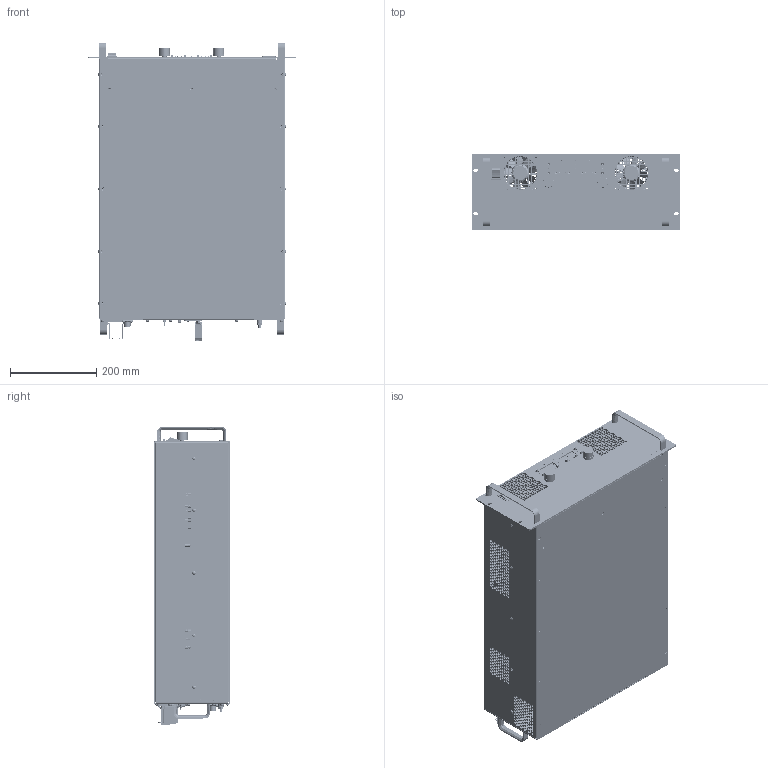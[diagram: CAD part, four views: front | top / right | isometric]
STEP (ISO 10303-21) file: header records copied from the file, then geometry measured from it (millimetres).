
FILE_DESCRIPTION (( 'STEP AP214' ), '1' );
FILE_NAME ('KR SERIES MAIN ASSEMBLY.STEP', '2020-03-23T13:39:04', ( '' ), ( '' ), 'SwSTEP 2.0', 'SolidWorks 2020', '' );
FILE_SCHEMA (( 'AUTOMOTIVE_DESIGN' ));
Length unit declared in the file: inch
Products named in the file (131): JCONN22M25-04 WITH PINS & STRAIN RELIEF; B014-3-12DC_B014-3-12DC-B03; DS008_DS008-LED-RED-2; H-HANDLE002_H-HANDLE002-07; FHS-440-8; JCONN22-STRNRLF; 401370-008_#; HFS1032-08FF; S-PB-PC-02; 201485-006_#; FHS-832-8; 101395-002_#1; DS008_DS008-LED-GRN-1; HFN0632L; ACI-EJ-1-A _PCB ASSY; 401370-005_#; HFS0440-06_91772A108; H-PLUG-D-15A; 401210-036_A_OVERLAY; FHS-032-8; S-RCKR-DS-08; H-SPCR-LED-005; 101414-001_#; S-PB-PC-02-1; 301157-004_#; HFS0832-06_91735A192; HFN1420; AFP-KR-1-D; 401323-026_#; HSTD-SC-1420-12; DS008_DS008-LED-YEL-1; 101418-001_#1; H-ANGLE-002; DS009-LED-DIS-1; HSTD-SC-0632-08; S-PB-PC-02CAP-B; JCONN22-PIN-CR_TAB REMOVED ; 106413-008_#; 401369-027A120_#_VIEW FOR SCREENING; DS016-YEL-1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
Assembly tree (413 placements, depth 5):
  KR SERIES MAIN ASSEMBLY
    AFP-KR-1-D
      401210-036_A_WITHOUT OVERLAY
        401210-036_A
        FHS-832-8  x4
        FHS-440-8  x2
        BSOS-440-12  x4
        401210-036_A_OVERLAY
      ADM-KR-1-1D
        PCA1548E
        DS008_DS008-LED-GRN-1
        DS008_DS008-LED-GRN-1
        DS008_DS008-LED-GRN-1
        DS008_DS008-LED-GRN-1
        DS008_DS008-LED-GRN-1
        DS008_DS008-LED-GRN-1
        DS008_DS008-LED-RED-2
        DS008_DS008-LED-RED-2
        DS008_DS008-LED-YEL-1
        DS008_DS008-LED-YEL-1
        DS008_DS008-LED-YEL-1
        H-SPCR-LED-005  x11
        S-PB-PC-02-1
          S-PB-PC-02
          S-PB-PC-02CAP-A
        S-PB-PC-02-1
          S-PB-PC-02
          S-PB-PC-02CAP-A
        S-PB-PC-02-1
          S-PB-PC-02
          S-PB-PC-02CAP-A
        S-PB-PC-02-1
          S-PB-PC-02
          S-PB-PC-02CAP-A
        S-PB-PC-02-1
          S-PB-PC-02
          S-PB-PC-02CAP-A
        S-PB-PC-02-1
          S-PB-PC-02
          S-PB-PC-02CAP-A
        S-PB-PC-02-1
          S-PB-PC-02
          S-PB-PC-02CAP-A
        S-PB-PC-02-2
          S-PB-PC-02
          S-PB-PC-02CAP-B
        101395-002_#1  x2
        DS009-LED-DIS-1
        DS009-LED-DIS-1
        DS009-LED-DIS-1
        DS009-LED-DIS-1
      S-RCKR-DS-08
      U033-EM14-03  x2
      KNOB003-01B  x2
      H-HANDLE002_H-HANDLE002-07  x2
      HFS1032-08FF  x4
    401369-027A120_#_VIEW FOR SCREENING
      401369-027_#_VIEW FOR SCREENING
      FHS-632-8  x3
      FHS-440-8  x2
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Bounding box: 482.6 x 177.01 x 692.94 mm (x, y, z)
Volume: 2869686.1 mm3; surface area: 3015538.6 mm2
Topology: 407 solids, 411 shells, 26961 faces, 71735 edges, 47021 vertices
Faces by surface type: plane 15181, cylinder 6877, bspline 3166, cone 1185, torus 468, sphere 84
Full cylindrical faces by diameter (mm): 0.1 x4, 0.152 x2, 0.203 x16, 0.219 x2, 0.254 x12, 0.305 x4, 0.457 x3, 0.462 x12, 0.787 x40, 0.813 x62, 0.889 x22, 1.016 x91, 1.025 x2, 1.08 x25, 1.092 x25, 1.15 x9, 1.173 x25, 1.194 x40, 1.2 x8, 1.4 x9, 1.588 x4, 1.6 x25, 1.8 x4, 1.829 x11, 2 x2, 2.083 x25, 2.156 x13, 2.159 x25, 2.21 x50, 2.223 x2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
Entity records: 835510 total; most frequent: CARTESIAN_POINT 259396, ORIENTED_EDGE 104138, DIRECTION 91488, EDGE_CURVE 52069, VERTEX_POINT 35217, VECTOR 35126, LINE 35126, AXIS2_PLACEMENT_3D 28181
